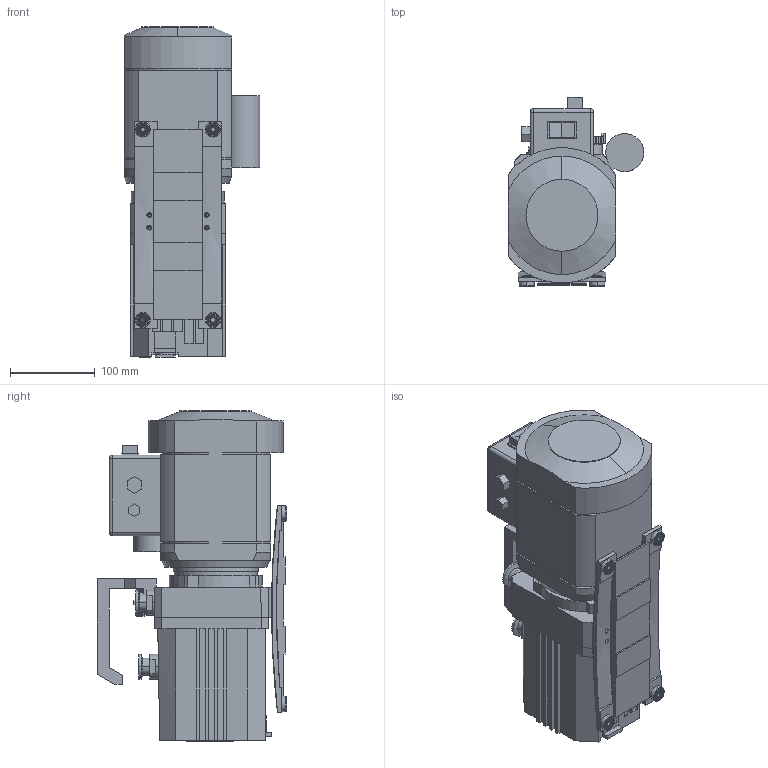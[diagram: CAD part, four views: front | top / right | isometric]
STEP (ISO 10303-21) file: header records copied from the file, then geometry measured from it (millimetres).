
FILE_DESCRIPTION((''),'2;1');
FILE_NAME('300598640_Y19_000_ASM','2016-03-09T',('56762'),('Copyright by Leybold GmbH'),'PRO/ENGINEER BY PARAMETRIC TECHNOLOGY CORPORATION, 2013320','PRO/ENGINEER BY PARAMETRIC TECHNOLOGY CORPORATION, 2013320','');
FILE_SCHEMA(('AUTOMOTIVE_DESIGN { 1 0 10303 214 1 1 1 1 }'));
Length unit declared in the file: millimetre
Products named in the file (15): 300598638_Y19_000; 853009050_PMD_000; 300598637_Y19_000_ASM; 300598677_Y19_000; 300598669_Y19_000; 300598646_Y19_000; 300598670_Y19_000_ASM; 300598642_Y19_000_ASM; 300598652_Y19_000; 300602130_Y19_000; 300598644_Y19_000; 300598628_Y19_000; 300598648_Y19_000; 300598633_Y19_000; 300598640_Y19_000_ASM
Assembly tree (19 placements, depth 4):
  300598640_Y19_000_ASM
    300598642_Y19_000_ASM
      300598637_Y19_000_ASM
        300598638_Y19_000
        853009050_PMD_000  x4
      300598677_Y19_000
      300598670_Y19_000_ASM
        300598669_Y19_000
        300598646_Y19_000
    300598652_Y19_000
    300602130_Y19_000
    300598644_Y19_000
    300598628_Y19_000  x2
    300598648_Y19_000  x2
    300598633_Y19_000
Bounding box: 160.19 x 223.99 x 390.3 mm (x, y, z)
Volume: 6313447.1 mm3; surface area: 474488 mm2
Topology: 16 solids, 16 shells, 789 faces, 1937 edges, 1230 vertices
Faces by surface type: plane 401, cylinder 242, cone 74, torus 66, sphere 4, bspline 2
Entity records: 23368 total; most frequent: CARTESIAN_POINT 4677, DIRECTION 3493, ORIENTED_EDGE 3334, EDGE_CURVE 1667, AXIS2_PLACEMENT_3D 1177, VECTOR 1139, LINE 1139, VERTEX_POINT 1082
